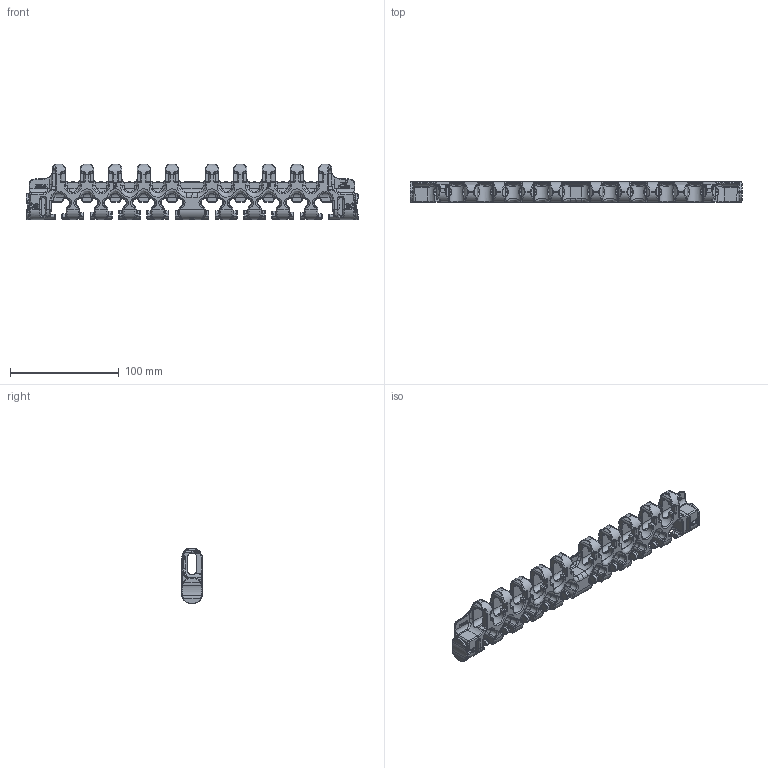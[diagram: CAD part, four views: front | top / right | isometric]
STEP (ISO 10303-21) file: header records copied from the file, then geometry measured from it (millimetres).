
FILE_DESCRIPTION((''),'2;1');
FILE_NAME('FLEX_ONE_WEARPART_EW_K1200_ASM','2011-12-12T',('mth'),(''),'PRO/ENGINEER BY PARAMETRIC TECHNOLOGY CORPORATION, 2010280','PRO/ENGINEER BY PARAMETRIC TECHNOLOGY CORPORATION, 2010280','');
FILE_SCHEMA(('CONFIG_CONTROL_DESIGN','SHAPE_APPEARANCE_LAYERS_GROUPS'));
Length unit declared in the file: millimetre
Products named in the file (3): P974; P993; FLEX_ONE_WEARPART_EW_K1200_ASM
Assembly tree (3 placements, depth 2):
  FLEX_ONE_WEARPART_EW_K1200_ASM
    P974
    P993  x2
Bounding box: 304.8 x 19.05 x 51 mm (x, y, z)
Volume: 109080 mm3; surface area: 52630.7 mm2
Topology: 3 solids, 3 shells, 4290 faces, 10751 edges, 6516 vertices
Faces by surface type: plane 1575, cylinder 1189, bspline 832, torus 626, sphere 64, extrusion 4
Entity records: 210471 total; most frequent: CARTESIAN_POINT 93407, ORIENTED_EDGE 19322, DIRECTION 17582, PRESENTATION_STYLE_ASSIGNMENT 9663, STYLED_ITEM 9663, CURVE_STYLE 9661, EDGE_CURVE 9661, AXIS2_PLACEMENT_3D 6501
